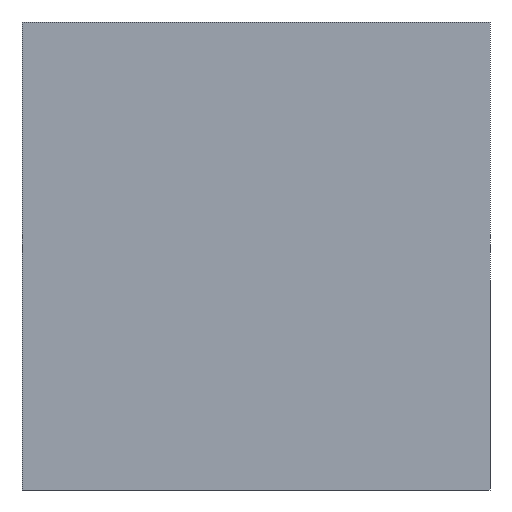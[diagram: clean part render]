
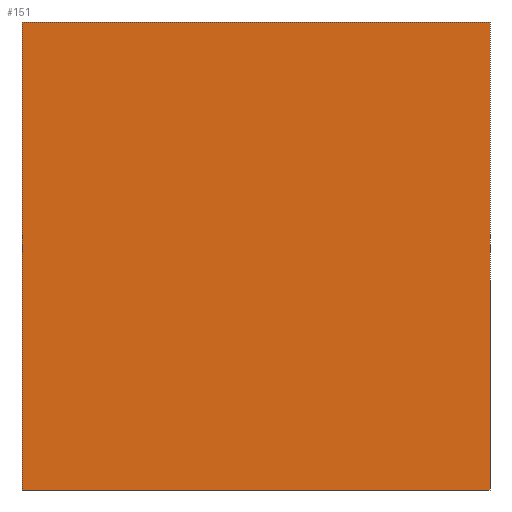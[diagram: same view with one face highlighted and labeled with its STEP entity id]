
A CAD part, front view. The second image highlights one B-rep face of the part: STEP entity #151.
In plain terms, the highlighted planar face has unit normal (0, -1, 0).
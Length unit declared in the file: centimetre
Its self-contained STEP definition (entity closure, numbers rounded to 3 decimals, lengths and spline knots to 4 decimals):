
#7 = EDGE_CURVE ( 'NONE', #268, #230, #21, .T. ) ;
#16 = CARTESIAN_POINT ( 'NONE',  ( 0., 0., 1000. ) ) ;
#17 = LINE ( 'NONE', #285, #237 ) ;
#21 = LINE ( 'NONE', #398, #31 ) ;
#31 = VECTOR ( 'NONE', #386, 100. ) ;
#37 = CARTESIAN_POINT ( 'NONE',  ( 0., 0., 1000. ) ) ;
#45 = VERTEX_POINT ( 'NONE', #161 ) ;
#64 = DIRECTION ( 'NONE',  ( 1., 0., 0. ) ) ;
#65 = ORIENTED_EDGE ( 'NONE', *, *, #66, .F. ) ;
#66 = EDGE_CURVE ( 'NONE', #268, #45, #17, .T. ) ;
#69 = AXIS2_PLACEMENT_3D ( 'NONE', #37, #273, #174 ) ;
#70 = ORIENTED_EDGE ( 'NONE', *, *, #103, .F. ) ;
#103 = EDGE_CURVE ( 'NONE', #45, #135, #144, .T. ) ;
#105 = FACE_OUTER_BOUND ( 'NONE', #302, .T. ) ;
#109 = CARTESIAN_POINT ( 'NONE',  ( 1000., 0., 0. ) ) ;
#135 = VERTEX_POINT ( 'NONE', #109 ) ;
#142 = CARTESIAN_POINT ( 'NONE',  ( 0., 0., 0. ) ) ;
#144 = LINE ( 'NONE', #240, #253 ) ;
#151 = ADVANCED_FACE ( 'NONE', ( #105 ), #170, .F. ) ;
#161 = CARTESIAN_POINT ( 'NONE',  ( 1000., 0., 1000. ) ) ;
#170 = PLANE ( 'NONE',  #69 ) ;
#174 = DIRECTION ( 'NONE',  ( 0., 0., 1. ) ) ;
#186 = LINE ( 'NONE', #426, #202 ) ;
#202 = VECTOR ( 'NONE', #64, 100. ) ;
#209 = DIRECTION ( 'NONE',  ( 0., 0., -1. ) ) ;
#230 = VERTEX_POINT ( 'NONE', #142 ) ;
#237 = VECTOR ( 'NONE', #391, 100. ) ;
#240 = CARTESIAN_POINT ( 'NONE',  ( 1000., 0., 1000. ) ) ;
#253 = VECTOR ( 'NONE', #209, 100. ) ;
#268 = VERTEX_POINT ( 'NONE', #16 ) ;
#273 = DIRECTION ( 'NONE',  ( 0., 1., 0. ) ) ;
#285 = CARTESIAN_POINT ( 'NONE',  ( 0., 0., 1000. ) ) ;
#302 = EDGE_LOOP ( 'NONE', ( #335, #70, #65, #326 ) ) ;
#326 = ORIENTED_EDGE ( 'NONE', *, *, #7, .T. ) ;
#335 = ORIENTED_EDGE ( 'NONE', *, *, #368, .T. ) ;
#368 = EDGE_CURVE ( 'NONE', #230, #135, #186, .T. ) ;
#386 = DIRECTION ( 'NONE',  ( 0., 0., -1. ) ) ;
#391 = DIRECTION ( 'NONE',  ( 1., 0., 0. ) ) ;
#398 = CARTESIAN_POINT ( 'NONE',  ( 0., 0., 1000. ) ) ;
#426 = CARTESIAN_POINT ( 'NONE',  ( 0., 0., 0. ) ) ;
